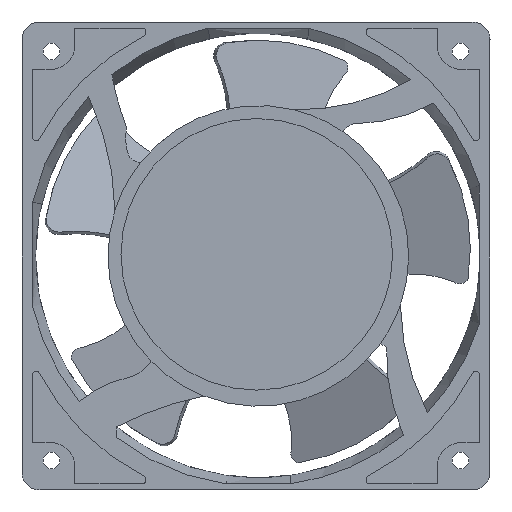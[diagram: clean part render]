
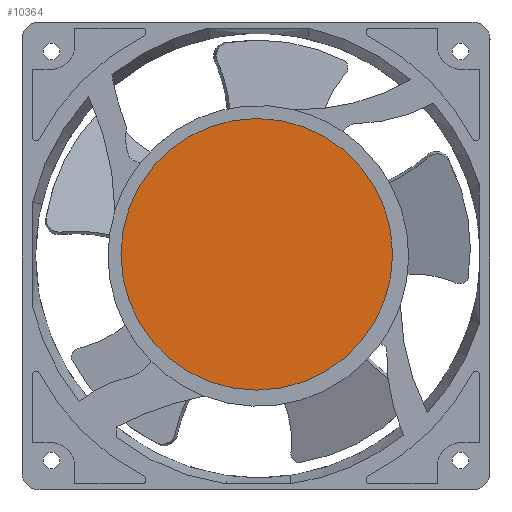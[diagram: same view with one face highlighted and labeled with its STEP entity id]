
A CAD part, front view. The second image highlights one B-rep face of the part: STEP entity #10364.
In plain terms, the highlighted planar face has unit normal (0, -1, 0).
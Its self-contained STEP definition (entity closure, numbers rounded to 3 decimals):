
#6797=CARTESIAN_POINT('',(-0.306,-25.5,
0.287));
#6798=DIRECTION('',(0.,-1.,0.));
#6799=DIRECTION('',(-1.,0.,0.));
#6800=AXIS2_PLACEMENT_3D('',#6797,#6798,#6799);
#6802=CARTESIAN_POINT('',(-0.306,-25.5,
0.287));
#6803=DIRECTION('',(0.,-1.,0.));
#6804=DIRECTION('',(1.,0.,0.));
#6805=AXIS2_PLACEMENT_3D('',#6802,#6803,#6804);
#7849=CARTESIAN_POINT('',(34.228,-25.5,
0.287));
#7851=VERTEX_POINT('',#7849);
#7852=CARTESIAN_POINT('',(-34.84,-25.5,
0.287));
#7854=VERTEX_POINT('',#7852);
#10355=CARTESIAN_POINT('',(-0.306,-25.5,
0.287));
#10356=DIRECTION('',(0.,1.,0.));
#10357=DIRECTION('',(1.,0.,0.));
#10358=AXIS2_PLACEMENT_3D('',#10355,#10356,#10357);
#10359=PLANE('',#10358);
#10360=ORIENTED_EDGE('',*,*,#10337,.F.);
#10361=ORIENTED_EDGE('',*,*,#10348,.F.);
#10362=EDGE_LOOP('',(#10360,#10361));
#10363=FACE_OUTER_BOUND('',#10362,.F.);
#10364=ADVANCED_FACE('',(#10363),#10359,.F.);
#6801=CIRCLE('',#6800,34.534);
#6806=CIRCLE('',#6805,34.534);
#10337=EDGE_CURVE('',#7854,#7851,#6801,.T.);
#10348=EDGE_CURVE('',#7851,#7854,#6806,.T.);
